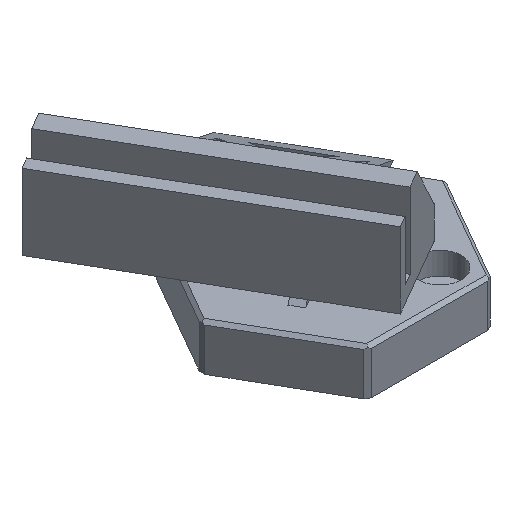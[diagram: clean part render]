
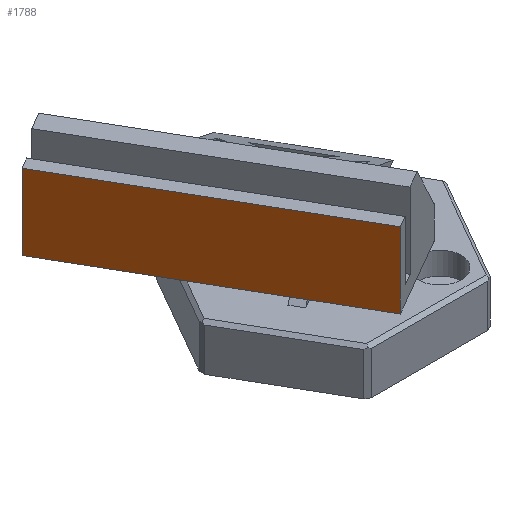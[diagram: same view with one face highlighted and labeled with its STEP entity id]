
A CAD part, isometric view. The second image highlights one B-rep face of the part: STEP entity #1788.
In plain terms, the highlighted planar face has unit normal (-0.866, -0.5, 0).
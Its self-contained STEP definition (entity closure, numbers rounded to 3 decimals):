
#72=FACE_OUTER_BOUND('',#179,.T.);
#179=EDGE_LOOP('',(#1319,#1320,#1321,#1322,#1323,#1324));
#339=LINE('',#2614,#582);
#342=LINE('',#2621,#585);
#350=LINE('',#2636,#593);
#351=LINE('',#2638,#594);
#352=LINE('',#2639,#595);
#353=LINE('',#2640,#596);
#582=VECTOR('',#2121,10.);
#585=VECTOR('',#2126,10.);
#593=VECTOR('',#2138,10.);
#594=VECTOR('',#2139,10.);
#595=VECTOR('',#2140,10.);
#596=VECTOR('',#2141,10.);
#811=VERTEX_POINT('',#2611);
#812=VERTEX_POINT('',#2613);
#813=VERTEX_POINT('',#2617);
#815=VERTEX_POINT('',#2620);
#820=VERTEX_POINT('',#2635);
#821=VERTEX_POINT('',#2637);
#998=EDGE_CURVE('',#812,#811,#339,.T.);
#1001=EDGE_CURVE('',#815,#813,#342,.T.);
#1009=EDGE_CURVE('',#820,#813,#350,.T.);
#1010=EDGE_CURVE('',#821,#820,#351,.T.);
#1011=EDGE_CURVE('',#812,#821,#352,.T.);
#1012=EDGE_CURVE('',#815,#811,#353,.T.);
#1319=ORIENTED_EDGE('',*,*,#1009,.F.);
#1320=ORIENTED_EDGE('',*,*,#1010,.F.);
#1321=ORIENTED_EDGE('',*,*,#1011,.F.);
#1322=ORIENTED_EDGE('',*,*,#998,.T.);
#1323=ORIENTED_EDGE('',*,*,#1012,.F.);
#1324=ORIENTED_EDGE('',*,*,#1001,.T.);
#1688=PLANE('',#1898);
#1788=ADVANCED_FACE('',(#72),#1688,.T.);
#1898=AXIS2_PLACEMENT_3D('',#2634,#2136,#2137);
#2121=DIRECTION('',(0.,0.,1.));
#2126=DIRECTION('',(0.,0.,-1.));
#2136=DIRECTION('center_axis',(-0.866,-0.5,0.));
#2137=DIRECTION('ref_axis',(0.5,-0.866,0.));
#2138=DIRECTION('',(-0.5,0.866,0.));
#2139=DIRECTION('',(-0.5,0.866,0.));
#2140=DIRECTION('',(-0.5,0.866,0.));
#2141=DIRECTION('',(0.5,-0.866,0.));
#2611=CARTESIAN_POINT('',(44.614,16.403,45.829));
#2613=CARTESIAN_POINT('',(44.614,16.403,34.329));
#2614=CARTESIAN_POINT('',(44.614,16.403,39.635));
#2617=CARTESIAN_POINT('',(23.52,52.939,34.329));
#2620=CARTESIAN_POINT('',(23.52,52.939,45.829));
#2621=CARTESIAN_POINT('',(23.52,52.939,39.635));
#2634=CARTESIAN_POINT('Origin',(34.067,34.671,38.163));
#2635=CARTESIAN_POINT('',(29.067,43.331,34.329));
#2636=CARTESIAN_POINT('',(30.181,41.403,34.329));
#2637=CARTESIAN_POINT('',(39.067,26.011,34.329));
#2638=CARTESIAN_POINT('',(34.067,34.671,34.329));
#2639=CARTESIAN_POINT('',(37.954,27.939,34.329));
#2640=CARTESIAN_POINT('',(34.067,34.671,45.829));
